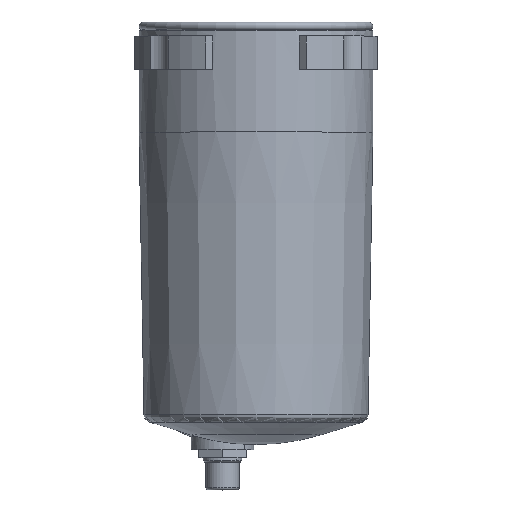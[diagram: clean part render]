
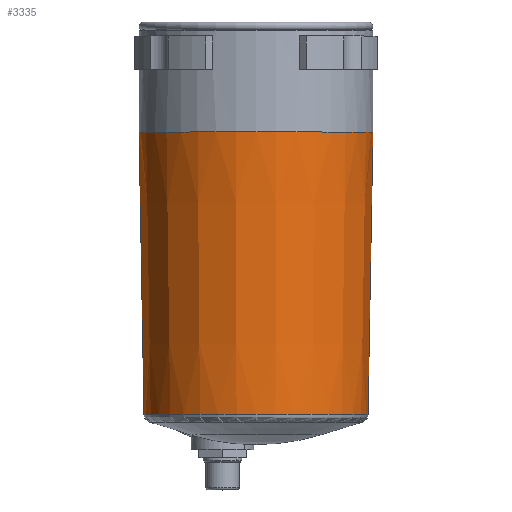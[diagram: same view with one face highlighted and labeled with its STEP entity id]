
A CAD part, top view. The second image highlights one B-rep face of the part: STEP entity #3335.
In plain terms, the highlighted conical face has half-angle 1 degrees and reference radius 41.115 mm.
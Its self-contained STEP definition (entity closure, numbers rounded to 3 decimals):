
#1705=CARTESIAN_POINT('',(0.,0.,0.));
#1706=DIRECTION('',(0.,1.,0.));
#1707=DIRECTION('',(-1.,0.,0.));
#1708=AXIS2_PLACEMENT_3D('',#1705,#1706,#1707);
#1710=DIRECTION('',(0.017,1.,0.));
#1711=VECTOR('',#1710,101.373);
#1712=CARTESIAN_POINT('',(40.231,-101.357,0.));
#1713=LINE('166',#1712,#1711);
#1714=CARTESIAN_POINT('',(0.,-101.357,0.));
#1715=DIRECTION('',(0.,-1.,0.));
#1716=DIRECTION('',(1.,0.,0.));
#1717=AXIS2_PLACEMENT_3D('',#1714,#1715,#1716);
#1719=DIRECTION('',(-0.017,1.,0.));
#1720=VECTOR('',#1719,101.373);
#1721=CARTESIAN_POINT('',(-40.231,-101.357,0.));
#1722=LINE('167',#1721,#1720);
#2196=CARTESIAN_POINT('',(40.231,-101.357,0.));
#2197=CARTESIAN_POINT('',(-40.231,-101.357,0.));
#2198=VERTEX_POINT('',#2196);
#2199=VERTEX_POINT('',#2197);
#2204=CARTESIAN_POINT('',(42.,0.,0.));
#2205=CARTESIAN_POINT('',(-42.,0.,0.));
#2206=VERTEX_POINT('',#2204);
#2207=VERTEX_POINT('',#2205);
#3323=CARTESIAN_POINT('',(0.,-50.679,0.));
#3324=DIRECTION('',(0.,1.,0.));
#3325=DIRECTION('',(1.,0.,0.));
#3326=AXIS2_PLACEMENT_3D('',#3323,#3324,#3325);
#3327=CONICAL_SURFACE('135',#3326,41.115,1.);
#3329=ORIENTED_EDGE('165',*,*,#3328,.T.);
#3330=ORIENTED_EDGE('166',*,*,#3255,.F.);
#3331=ORIENTED_EDGE('136',*,*,#3274,.T.);
#3332=ORIENTED_EDGE('167',*,*,#3258,.T.);
#3333=EDGE_LOOP('135',(#3329,#3330,#3331,#3332));
#3334=FACE_OUTER_BOUND('135',#3333,.F.);
#3335=ADVANCED_FACE('135',(#3334),#3327,.T.);
#1709=CIRCLE('165',#1708,42.);
#1718=CIRCLE('136',#1717,40.231);
#3255=EDGE_CURVE('166',#2198,#2206,#1713,.T.);
#3258=EDGE_CURVE('167',#2199,#2207,#1722,.T.);
#3274=EDGE_CURVE('136',#2198,#2199,#1718,.T.);
#3328=EDGE_CURVE('165',#2207,#2206,#1709,.T.);
